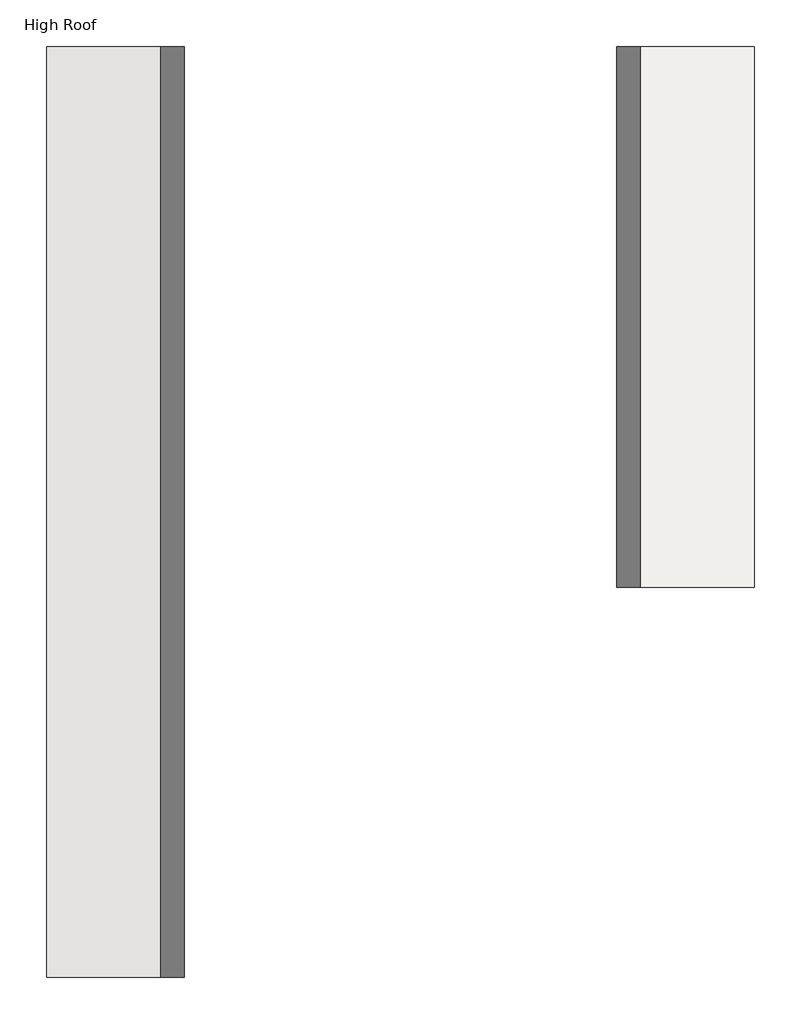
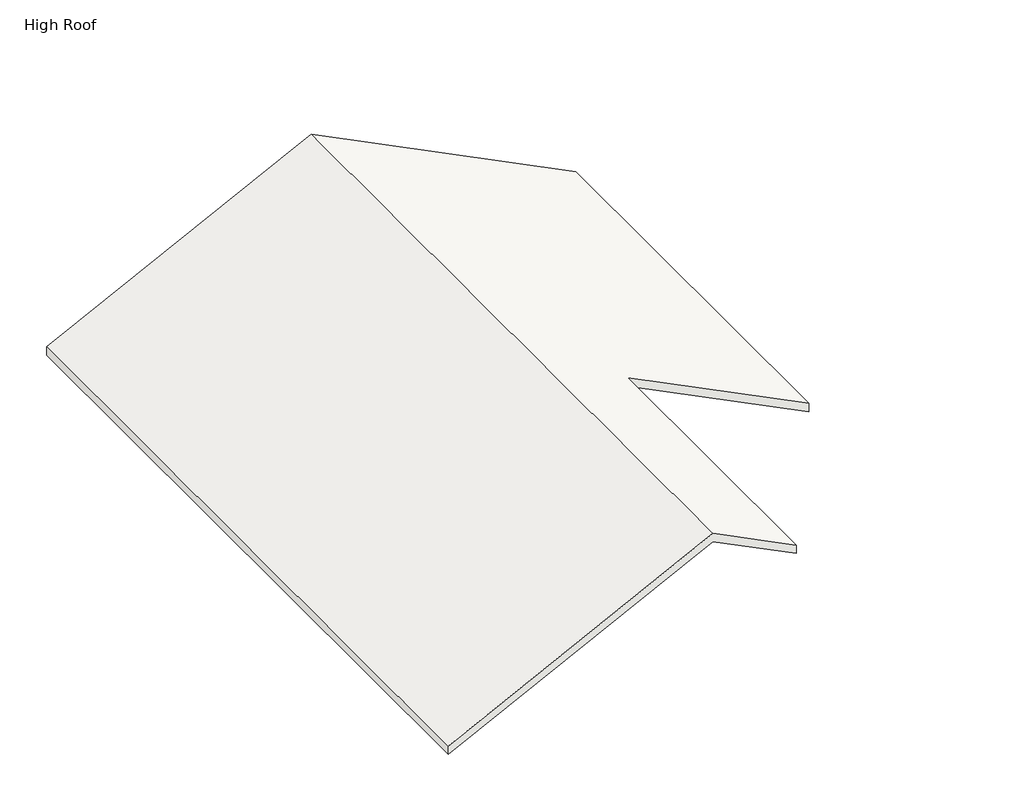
# One storey: 1 roof.
"""IFC4 building model written with IfcOpenShell, lengths in millimetres."""

from ifc_helpers import new_model, si_unit, origin, place, context, project, spatial, faceted_brep, element, save

model = new_model("IFC4")

# Units and contexts
model_context = context("Model", 3, world=origin())
ifc_project = project(units=[si_unit("LENGTHUNIT", "METRE", prefix="MILLI")], contexts=[model_context])

# Site, building, storey
site = spatial("IfcSite", under=ifc_project)
building = spatial("IfcBuilding", under=site)
storey = spatial("IfcBuildingStorey", under=building, Name="High Roof", Elevation=6100.0)

# Roof
placement = place(None, origin())
element("IfcRoof", 1, ObjectType="Generic - 9\"", at=placement, inside=storey, context=model_context, shape_type="Brep", body=[
    faceted_brep([(-6620.9266552, 11343.4605424, 9663.9375), (1116.5483448, 11343.4605424, 5795.2), (1116.5483448, -473.8894576, 5795.2), (-4183.7102308, -473.8894576, 8445.3292878), (-4183.7102308, -9008.2894576, 8445.3292878), (-6620.9266552, -9008.2894576, 9663.9375), (-14358.4016552, -9008.2894576, 5795.2), (-14358.4016552, 11343.4605424, 5795.2), (1116.5483448, 11343.4605424, 6050.7825698), (-6620.9266552, 11343.4605424, 9919.5200698), (-6620.9266552, -9008.2894576, 9919.5200698), (-4183.7102308, -9008.2894576, 8700.9118576), (-4183.7102308, -473.8894576, 8700.9118576), (1116.5483448, -473.8894576, 6050.7825698), (-14358.4016552, 11343.4605424, 6050.7825698), (-14358.4016552, -9008.2894576, 6050.7825698)], [[[0, 1, 2, 3, 4, 5]], [[6, 7, 0, 5]], [[8, 9, 10, 11, 12, 13]], [[14, 15, 10, 9]], [[6, 15, 14, 7]], [[1, 8, 13, 2]], [[14, 9, 8, 1, 0, 7]], [[11, 10, 15, 6, 5, 4]], [[12, 11, 4, 3]], [[13, 12, 3, 2]]]),
])

save(model, "model.ifc")
